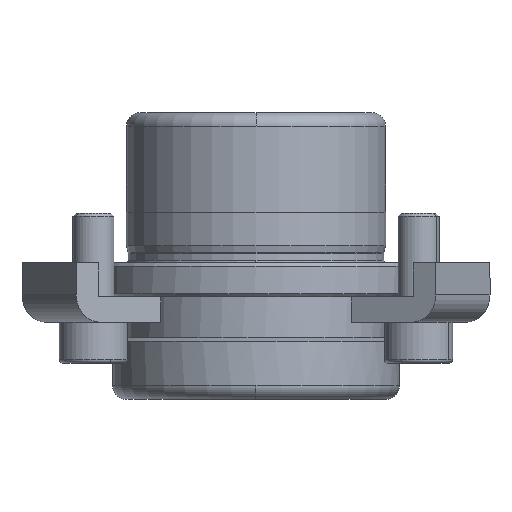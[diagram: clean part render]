
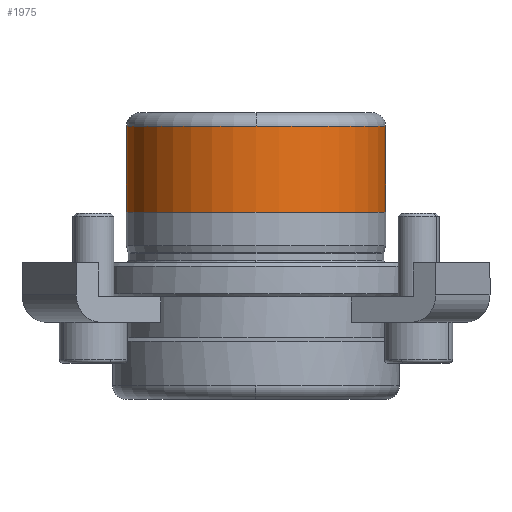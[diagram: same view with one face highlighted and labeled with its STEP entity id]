
A CAD part, front view. The second image highlights one B-rep face of the part: STEP entity #1975.
In plain terms, the highlighted cylindrical face has radius 18.99 mm (diameter 37.98 mm), a partial arc.
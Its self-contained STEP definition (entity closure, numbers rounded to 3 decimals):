
#1100=CARTESIAN_POINT('',(18.99,0.,7.4));
#1101=VERTEX_POINT('',#1100);
#1102=CARTESIAN_POINT('',(18.99,0.,20.0));
#1103=VERTEX_POINT('',#1102);
#1104=CARTESIAN_POINT('',(18.99,0.,7.4));
#1105=DIRECTION('',(0.0,0.0,1.0));
#1106=VECTOR('',#1105,12.6);
#1107=LINE('',#1104,#1106);
#1108=EDGE_CURVE('',#1101,#1103,#1107,.T.);
#1110=CARTESIAN_POINT('',(-18.99,0.,7.4));
#1111=VERTEX_POINT('',#1110);
#1119=CARTESIAN_POINT('',(-18.99,0.,20.0));
#1120=VERTEX_POINT('',#1119);
#1121=CARTESIAN_POINT('',(-18.99,0.,7.4));
#1122=DIRECTION('',(0.0,0.0,1.0));
#1123=VECTOR('',#1122,12.6);
#1124=LINE('',#1121,#1123);
#1125=EDGE_CURVE('',#1111,#1120,#1124,.T.);
#1161=CARTESIAN_POINT('',(0.,-18.99,20.0));
#1162=VERTEX_POINT('',#1161);
#1163=CARTESIAN_POINT('',(0.0,0.,20.0));
#1164=DIRECTION('',(0.0,0.0,-1.0));
#1165=DIRECTION('',(1.0,0.0,0.0));
#1166=AXIS2_PLACEMENT_3D('',#1163,#1164,#1165);
#1167=CIRCLE('',#1166,18.99);
#1168=EDGE_CURVE('',#1162,#1120,#1167,.T.);
#1946=CARTESIAN_POINT('',(0.0,0.,20.0));
#1947=DIRECTION('',(0.0,0.0,-1.0));
#1948=DIRECTION('',(1.0,0.0,0.0));
#1949=AXIS2_PLACEMENT_3D('',#1946,#1947,#1948);
#1950=CIRCLE('',#1949,18.99);
#1951=EDGE_CURVE('',#1103,#1162,#1950,.T.);
#1957=CARTESIAN_POINT('',(0.0,0.,13.7));
#1958=DIRECTION('',(0.0,0.,-1.0));
#1959=DIRECTION('',(1.0,0.0,0.0));
#1960=AXIS2_PLACEMENT_3D('',#1957,#1958,#1959);
#1961=CYLINDRICAL_SURFACE('',#1960,18.99);
#1962=ORIENTED_EDGE('',*,*,#1108,.T.);
#1963=ORIENTED_EDGE('',*,*,#1951,.T.);
#1964=ORIENTED_EDGE('',*,*,#1168,.T.);
#1965=ORIENTED_EDGE('',*,*,#1125,.F.);
#1966=CARTESIAN_POINT('',(0.0,0.,7.4));
#1967=DIRECTION('',(0.0,0.0,-1.0));
#1968=DIRECTION('',(1.0,0.0,0.0));
#1969=AXIS2_PLACEMENT_3D('',#1966,#1967,#1968);
#1970=CIRCLE('',#1969,18.99);
#1971=EDGE_CURVE('',#1101,#1111,#1970,.T.);
#1972=ORIENTED_EDGE('',*,*,#1971,.F.);
#1973=EDGE_LOOP('',(#1962,#1963,#1964,#1965,#1972));
#1974=FACE_OUTER_BOUND('',#1973,.T.);
#1975=ADVANCED_FACE('',(#1974),#1961,.T.);
